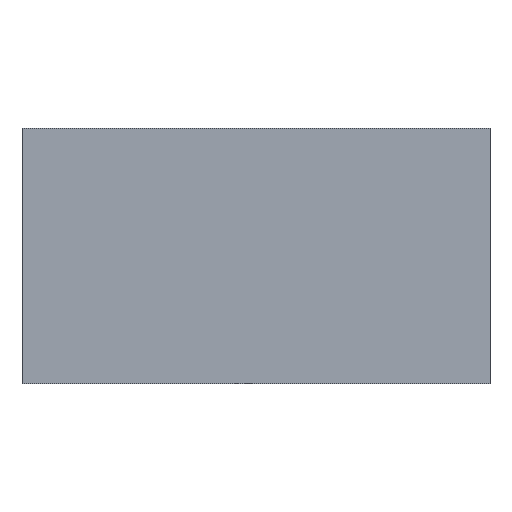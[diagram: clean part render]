
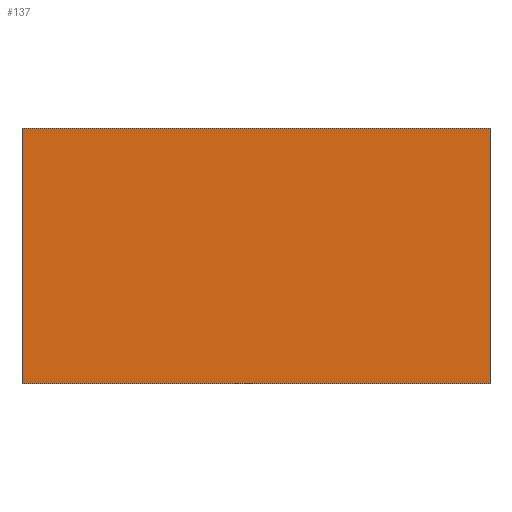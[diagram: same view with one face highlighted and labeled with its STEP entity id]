
A CAD part, front view. The second image highlights one B-rep face of the part: STEP entity #137.
In plain terms, the highlighted planar face has unit normal (0, -1, 0).
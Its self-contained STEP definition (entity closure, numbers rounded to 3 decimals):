
#21 = EDGE_CURVE('',#22,#24,#26,.T.);
#22 = VERTEX_POINT('',#23);
#23 = CARTESIAN_POINT('',(185.,-52.,26.6));
#24 = VERTEX_POINT('',#25);
#25 = CARTESIAN_POINT('',(185.,-52.,32.6));
#26 = SURFACE_CURVE('',#27,(#31,#43),.PCURVE_S1.);
#27 = LINE('',#28,#29);
#28 = CARTESIAN_POINT('',(185.,-52.,26.6));
#29 = VECTOR('',#30,1.);
#30 = DIRECTION('',(0.,0.,1.));
#31 = PCURVE('',#32,#37);
#32 = PLANE('',#33);
#33 = AXIS2_PLACEMENT_3D('',#34,#35,#36);
#34 = CARTESIAN_POINT('',(185.,-52.,26.6));
#35 = DIRECTION('',(1.,0.,0.));
#36 = DIRECTION('',(0.,0.,1.));
#37 = DEFINITIONAL_REPRESENTATION('',(#38),#42);
#38 = LINE('',#39,#40);
#39 = CARTESIAN_POINT('',(0.,0.));
#40 = VECTOR('',#41,1.);
#41 = DIRECTION('',(1.,0.));
#42 = ( GEOMETRIC_REPRESENTATION_CONTEXT(2) 
PARAMETRIC_REPRESENTATION_CONTEXT() REPRESENTATION_CONTEXT('2D SPACE',''
  ) );
#43 = PCURVE('',#44,#49);
#44 = PLANE('',#45);
#45 = AXIS2_PLACEMENT_3D('',#46,#47,#48);
#46 = CARTESIAN_POINT('',(185.,-52.,26.6));
#47 = DIRECTION('',(0.,1.,0.));
#48 = DIRECTION('',(0.,0.,1.));
#49 = DEFINITIONAL_REPRESENTATION('',(#50),#54);
#50 = LINE('',#51,#52);
#51 = CARTESIAN_POINT('',(0.,0.));
#52 = VECTOR('',#53,1.);
#53 = DIRECTION('',(1.,0.));
#54 = ( GEOMETRIC_REPRESENTATION_CONTEXT(2) 
PARAMETRIC_REPRESENTATION_CONTEXT() REPRESENTATION_CONTEXT('2D SPACE',''
  ) );
#72 = PLANE('',#73);
#73 = AXIS2_PLACEMENT_3D('',#74,#75,#76);
#74 = CARTESIAN_POINT('',(185.,-52.,26.6));
#75 = DIRECTION('',(0.,0.,1.));
#76 = DIRECTION('',(1.,0.,0.));
#126 = PLANE('',#127);
#127 = AXIS2_PLACEMENT_3D('',#128,#129,#130);
#128 = CARTESIAN_POINT('',(185.,-52.,32.6));
#129 = DIRECTION('',(0.,0.,1.));
#130 = DIRECTION('',(1.,0.,0.));
#137 = ADVANCED_FACE('',(#138),#44,.F.);
#138 = FACE_BOUND('',#139,.F.);
#139 = EDGE_LOOP('',(#140,#163,#164,#187));
#140 = ORIENTED_EDGE('',*,*,#141,.F.);
#141 = EDGE_CURVE('',#22,#142,#144,.T.);
#142 = VERTEX_POINT('',#143);
#143 = CARTESIAN_POINT('',(196.,-52.,26.6));
#144 = SURFACE_CURVE('',#145,(#149,#156),.PCURVE_S1.);
#145 = LINE('',#146,#147);
#146 = CARTESIAN_POINT('',(185.,-52.,26.6));
#147 = VECTOR('',#148,1.);
#148 = DIRECTION('',(1.,0.,0.));
#149 = PCURVE('',#44,#150);
#150 = DEFINITIONAL_REPRESENTATION('',(#151),#155);
#151 = LINE('',#152,#153);
#152 = CARTESIAN_POINT('',(0.,0.));
#153 = VECTOR('',#154,1.);
#154 = DIRECTION('',(0.,1.));
#155 = ( GEOMETRIC_REPRESENTATION_CONTEXT(2) 
PARAMETRIC_REPRESENTATION_CONTEXT() REPRESENTATION_CONTEXT('2D SPACE',''
  ) );
#156 = PCURVE('',#72,#157);
#157 = DEFINITIONAL_REPRESENTATION('',(#158),#162);
#158 = LINE('',#159,#160);
#159 = CARTESIAN_POINT('',(0.,0.));
#160 = VECTOR('',#161,1.);
#161 = DIRECTION('',(1.,0.));
#162 = ( GEOMETRIC_REPRESENTATION_CONTEXT(2) 
PARAMETRIC_REPRESENTATION_CONTEXT() REPRESENTATION_CONTEXT('2D SPACE',''
  ) );
#163 = ORIENTED_EDGE('',*,*,#21,.T.);
#164 = ORIENTED_EDGE('',*,*,#165,.T.);
#165 = EDGE_CURVE('',#24,#166,#168,.T.);
#166 = VERTEX_POINT('',#167);
#167 = CARTESIAN_POINT('',(196.,-52.,32.6));
#168 = SURFACE_CURVE('',#169,(#173,#180),.PCURVE_S1.);
#169 = LINE('',#170,#171);
#170 = CARTESIAN_POINT('',(185.,-52.,32.6));
#171 = VECTOR('',#172,1.);
#172 = DIRECTION('',(1.,0.,0.));
#173 = PCURVE('',#44,#174);
#174 = DEFINITIONAL_REPRESENTATION('',(#175),#179);
#175 = LINE('',#176,#177);
#176 = CARTESIAN_POINT('',(6.,0.));
#177 = VECTOR('',#178,1.);
#178 = DIRECTION('',(0.,1.));
#179 = ( GEOMETRIC_REPRESENTATION_CONTEXT(2) 
PARAMETRIC_REPRESENTATION_CONTEXT() REPRESENTATION_CONTEXT('2D SPACE',''
  ) );
#180 = PCURVE('',#126,#181);
#181 = DEFINITIONAL_REPRESENTATION('',(#182),#186);
#182 = LINE('',#183,#184);
#183 = CARTESIAN_POINT('',(0.,0.));
#184 = VECTOR('',#185,1.);
#185 = DIRECTION('',(1.,0.));
#186 = ( GEOMETRIC_REPRESENTATION_CONTEXT(2) 
PARAMETRIC_REPRESENTATION_CONTEXT() REPRESENTATION_CONTEXT('2D SPACE',''
  ) );
#187 = ORIENTED_EDGE('',*,*,#188,.F.);
#188 = EDGE_CURVE('',#142,#166,#189,.T.);
#189 = SURFACE_CURVE('',#190,(#194,#201),.PCURVE_S1.);
#190 = LINE('',#191,#192);
#191 = CARTESIAN_POINT('',(196.,-52.,26.6));
#192 = VECTOR('',#193,1.);
#193 = DIRECTION('',(0.,0.,1.));
#194 = PCURVE('',#44,#195);
#195 = DEFINITIONAL_REPRESENTATION('',(#196),#200);
#196 = LINE('',#197,#198);
#197 = CARTESIAN_POINT('',(0.,11.));
#198 = VECTOR('',#199,1.);
#199 = DIRECTION('',(1.,0.));
#200 = ( GEOMETRIC_REPRESENTATION_CONTEXT(2) 
PARAMETRIC_REPRESENTATION_CONTEXT() REPRESENTATION_CONTEXT('2D SPACE',''
  ) );
#201 = PCURVE('',#202,#207);
#202 = PLANE('',#203);
#203 = AXIS2_PLACEMENT_3D('',#204,#205,#206);
#204 = CARTESIAN_POINT('',(196.,-52.,26.6));
#205 = DIRECTION('',(1.,0.,0.));
#206 = DIRECTION('',(0.,0.,1.));
#207 = DEFINITIONAL_REPRESENTATION('',(#208),#212);
#208 = LINE('',#209,#210);
#209 = CARTESIAN_POINT('',(0.,0.));
#210 = VECTOR('',#211,1.);
#211 = DIRECTION('',(1.,0.));
#212 = ( GEOMETRIC_REPRESENTATION_CONTEXT(2) 
PARAMETRIC_REPRESENTATION_CONTEXT() REPRESENTATION_CONTEXT('2D SPACE',''
  ) );
